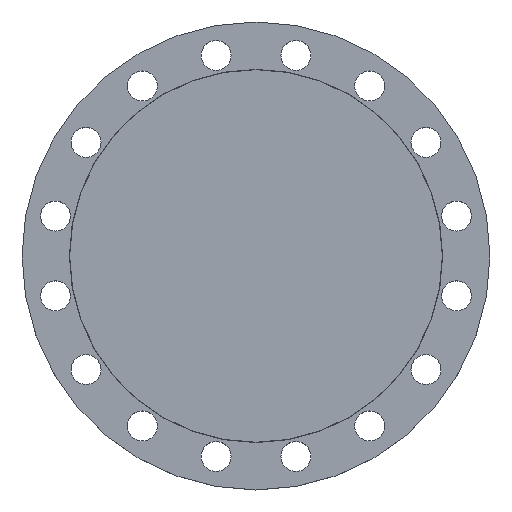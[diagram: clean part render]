
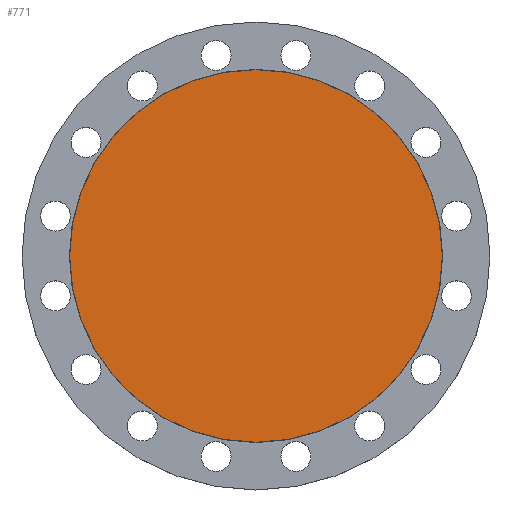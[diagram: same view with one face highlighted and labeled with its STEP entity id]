
A CAD part, top view. The second image highlights one B-rep face of the part: STEP entity #771.
In plain terms, the highlighted planar face has unit normal (0, 0, 1).
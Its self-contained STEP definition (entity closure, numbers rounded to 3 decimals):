
#52 = ORIENTED_EDGE ( 'NONE', *, *, #1538, .F. ) ;
#118 = ORIENTED_EDGE ( 'NONE', *, *, #896, .F. ) ;
#256 = DIRECTION ( 'NONE',  ( -1., 0., 0. ) ) ;
#447 = DIRECTION ( 'NONE',  ( -1., 0., 0. ) ) ;
#468 = CARTESIAN_POINT ( 'NONE',  ( 0., 0., 0. ) ) ;
#473 = EDGE_LOOP ( 'NONE', ( #52, #118 ) ) ;
#509 = VERTEX_POINT ( 'NONE', #733 ) ;
#678 = DIRECTION ( 'NONE',  ( 0., 0., -1. ) ) ;
#733 = CARTESIAN_POINT ( 'NONE',  ( 205., 0., 0. ) ) ;
#771 = ADVANCED_FACE ( 'NONE', ( #889 ), #1405, .T. ) ;
#853 = CIRCLE ( 'NONE', #873, 205. ) ;
#873 = AXIS2_PLACEMENT_3D ( 'NONE', #468, #919, #447 ) ;
#889 = FACE_OUTER_BOUND ( 'NONE', #473, .T. ) ;
#896 = EDGE_CURVE ( 'NONE', #509, #1345, #1385, .T. ) ;
#919 = DIRECTION ( 'NONE',  ( 0., 0., -1. ) ) ;
#937 = AXIS2_PLACEMENT_3D ( 'NONE', #1034, #1262, #998 ) ;
#968 = CARTESIAN_POINT ( 'NONE',  ( 0., 0., 0. ) ) ;
#998 = DIRECTION ( 'NONE',  ( 1., 0., 0. ) ) ;
#1034 = CARTESIAN_POINT ( 'NONE',  ( 0., 0., 0. ) ) ;
#1076 = CARTESIAN_POINT ( 'NONE',  ( -205., 0., 0. ) ) ;
#1262 = DIRECTION ( 'NONE',  ( 0., 0., 1. ) ) ;
#1345 = VERTEX_POINT ( 'NONE', #1076 ) ;
#1385 = CIRCLE ( 'NONE', #1598, 205. ) ;
#1405 = PLANE ( 'NONE',  #937 ) ;
#1538 = EDGE_CURVE ( 'NONE', #1345, #509, #853, .T. ) ;
#1598 = AXIS2_PLACEMENT_3D ( 'NONE', #968, #678, #256 ) ;
